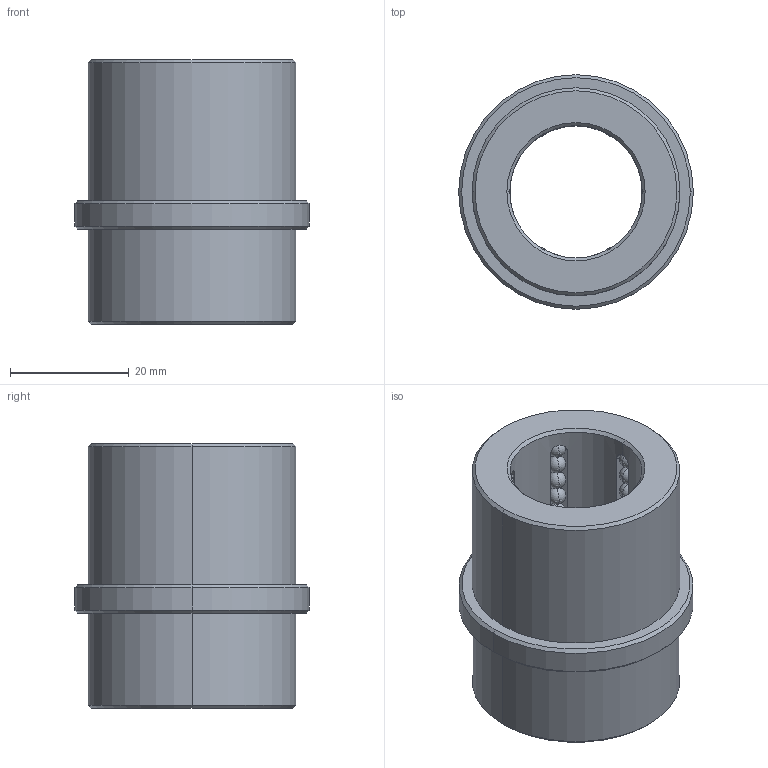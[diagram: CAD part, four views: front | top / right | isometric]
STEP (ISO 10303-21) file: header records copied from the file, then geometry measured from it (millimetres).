
FILE_DESCRIPTION((''),'2;1');
FILE_NAME('BGEB0875','2018-01-06T',('MANU'),(''),'PRO/ENGINEER BY PARAMETRIC TECHNOLOGY CORPORATION, 2012130','PRO/ENGINEER BY PARAMETRIC TECHNOLOGY CORPORATION, 2012130','');
FILE_SCHEMA(('CONFIG_CONTROL_DESIGN'));
Length unit declared in the file: millimetre
Products named in the file (1): BGEB0875
Bounding box: 39.42 x 39.42 x 44.45 mm (x, y, z)
Volume: 25504.8 mm3; surface area: 12999.8 mm2
Topology: 73 solids, 73 shells, 198 faces, 558 edges, 224 vertices
Faces by surface type: sphere 144, plane 22, cylinder 20, cone 12
Entity records: 4490 total; most frequent: CARTESIAN_POINT 902, DIRECTION 834, ORIENTED_EDGE 540, AXIS2_PLACEMENT_3D 382, EDGE_CURVE 270, VERTEX_POINT 224, EDGE_LOOP 206, FACE_OUTER_BOUND 198
